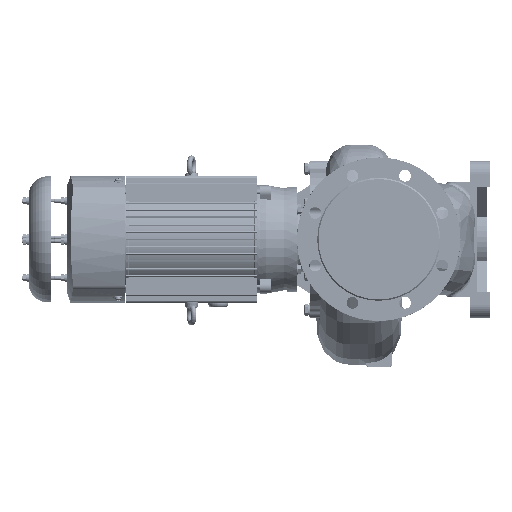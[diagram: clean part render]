
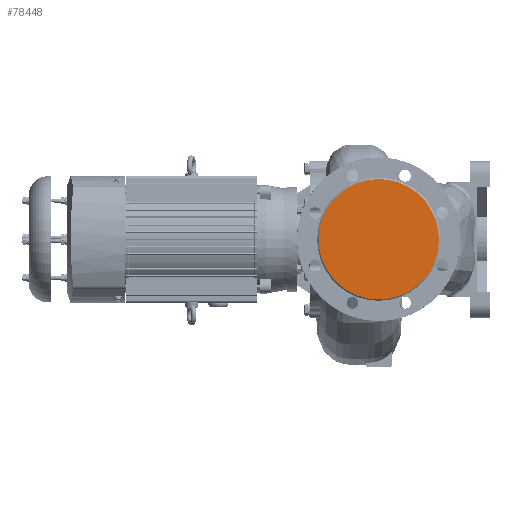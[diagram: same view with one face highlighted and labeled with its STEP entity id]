
A CAD part, left-side view. The second image highlights one B-rep face of the part: STEP entity #78448.
In plain terms, the highlighted planar face has unit normal (-1, 0, 0).
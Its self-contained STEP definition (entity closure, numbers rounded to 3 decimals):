
#11935 = CIRCLE ( 'NONE', #252654, 92. ) ;
#13802 = DIRECTION ( 'NONE',  ( -1., 0., 0. ) ) ;
#27100 = CARTESIAN_POINT ( 'NONE',  ( -223.609, 307.425, 539.636 ) ) ;
#48149 = PLANE ( 'NONE',  #300849 ) ;
#52494 = DIRECTION ( 'NONE',  ( 0., 0., 1. ) ) ;
#64840 = EDGE_LOOP ( 'NONE', ( #250700 ) ) ;
#76680 = FACE_OUTER_BOUND ( 'NONE', #64840, .T. ) ;
#78448 = ADVANCED_FACE ( 'NONE', ( #76680 ), #48149, .T. ) ;
#119263 = CARTESIAN_POINT ( 'NONE',  ( -223.609, 215.425, 539.636 ) ) ;
#165722 = CARTESIAN_POINT ( 'NONE',  ( -223.609, 307.425, 539.636 ) ) ;
#191202 = DIRECTION ( 'NONE',  ( 0., -1., 0. ) ) ;
#204607 = DIRECTION ( 'NONE',  ( -1., 0., 0. ) ) ;
#250700 = ORIENTED_EDGE ( 'NONE', *, *, #315750, .T. ) ;
#252654 = AXIS2_PLACEMENT_3D ( 'NONE', #165722, #13802, #191202 ) ;
#263058 = VERTEX_POINT ( 'NONE', #119263 ) ;
#300849 = AXIS2_PLACEMENT_3D ( 'NONE', #27100, #204607, #52494 ) ;
#315750 = EDGE_CURVE ( 'NONE', #263058, #263058, #11935, .T. ) ;
